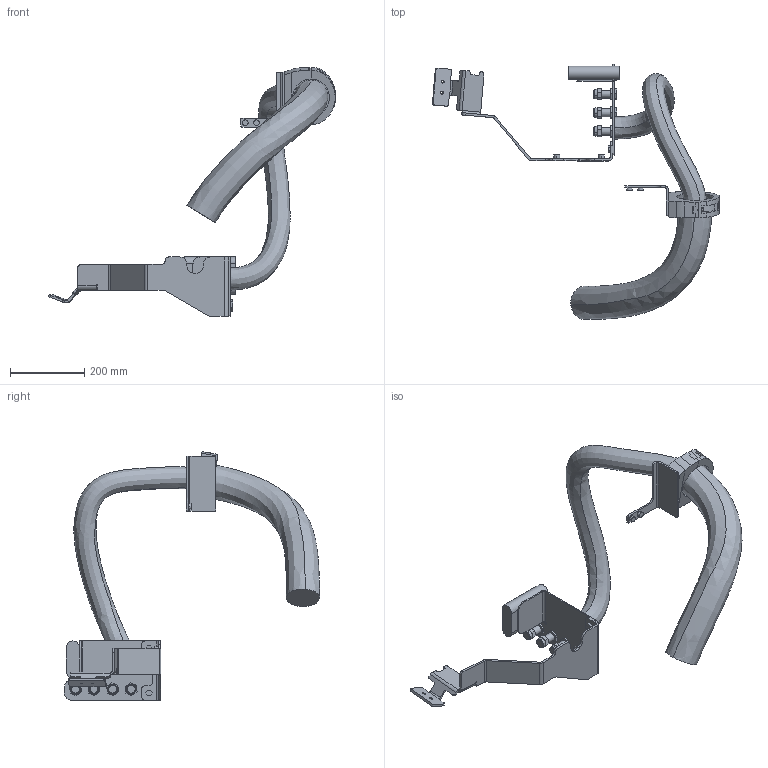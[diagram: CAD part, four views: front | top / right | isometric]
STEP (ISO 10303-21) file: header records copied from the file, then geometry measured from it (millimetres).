
FILE_DESCRIPTION (( 'STEP AP214' ), '1' );
FILE_NAME ('IRB5720-LID-SW_155kg-260_OC_01_LINK03a_CABLE.step', '2025-07-08T11:04:09', ( '' ), ( '' ), 'SwSTEP 2.0', 'SolidWorks 2024', '' );
FILE_SCHEMA (( 'AUTOMOTIVE_DESIGN' ));
Length unit declared in the file: millimetre
Products named in the file (1): IRB5720-LID-SW_155kg-260_OC_01_LINK03a_CABLE
Bounding box: 773.03 x 687.34 x 669.77 mm (x, y, z)
Volume: 7827658.5 mm3; surface area: 692021.8 mm2
Topology: 1 solids, 9 shells, 497 faces, 1227 edges, 794 vertices
Faces by surface type: plane 302, cylinder 143, cone 32, bspline 8, torus 8, sphere 4
Entity records: 23359 total; most frequent: CARTESIAN_POINT 5845, DIRECTION 2557, ORIENTED_EDGE 2450, EDGE_CURVE 1225, AXIS2_PLACEMENT_3D 890, VERTEX_POINT 794, VECTOR 777, LINE 777
